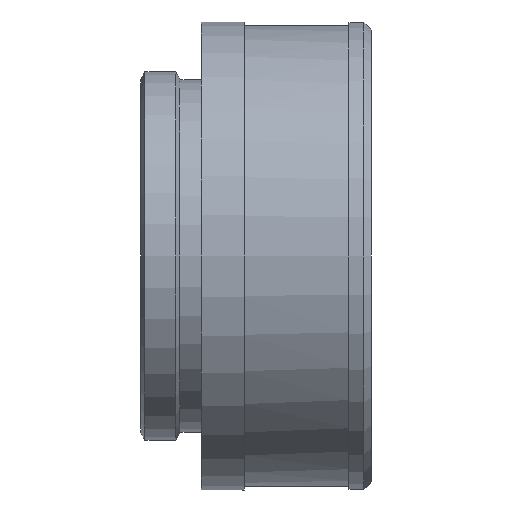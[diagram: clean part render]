
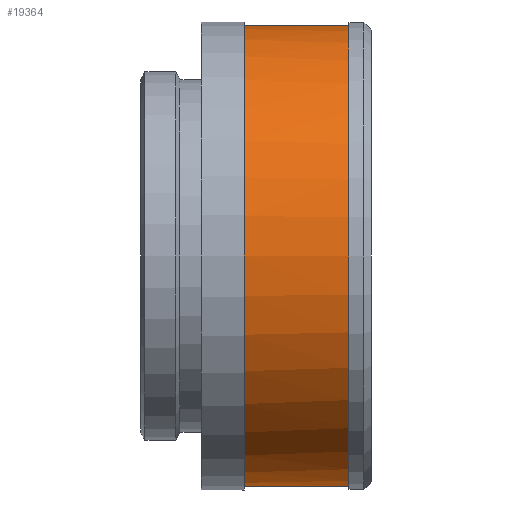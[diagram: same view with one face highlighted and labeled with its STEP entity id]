
A CAD part, left-side view. The second image highlights one B-rep face of the part: STEP entity #19364.
In plain terms, the highlighted cylindrical face has radius 15.621 mm (diameter 31.242 mm), a partial arc.
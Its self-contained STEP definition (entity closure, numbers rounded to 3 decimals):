
#229 = CARTESIAN_POINT ( 'NONE',  ( 0., -0.92, 15.621 ) ) ;
#292 = ORIENTED_EDGE ( 'NONE', *, *, #7984, .T. ) ;
#943 = FACE_OUTER_BOUND ( 'NONE', #22565, .T. ) ;
#1047 = CIRCLE ( 'NONE', #3599, 15.621 ) ;
#1156 = AXIS2_PLACEMENT_3D ( 'NONE', #7054, #3357, #16540 ) ;
#1966 = VERTEX_POINT ( 'NONE', #14406 ) ;
#2514 = DIRECTION ( 'NONE',  ( 0., 1., 0. ) ) ;
#2729 = DIRECTION ( 'NONE',  ( 0., 1., 0. ) ) ;
#3357 = DIRECTION ( 'NONE',  ( 0., 1., 0. ) ) ;
#3599 = AXIS2_PLACEMENT_3D ( 'NONE', #8130, #21882, #18082 ) ;
#3719 = VERTEX_POINT ( 'NONE', #18219 ) ;
#4139 = EDGE_CURVE ( 'NONE', #14565, #10554, #18747, .T. ) ;
#4501 = ORIENTED_EDGE ( 'NONE', *, *, #12476, .F. ) ;
#4831 = CARTESIAN_POINT ( 'NONE',  ( 0., 6.192, 0. ) ) ;
#4892 = EDGE_CURVE ( 'NONE', #18725, #17620, #22191, .T. ) ;
#5802 = CARTESIAN_POINT ( 'NONE',  ( -0.762, -0.92, -15.602 ) ) ;
#6221 = ORIENTED_EDGE ( 'NONE', *, *, #4892, .T. ) ;
#6328 = ORIENTED_EDGE ( 'NONE', *, *, #9802, .F. ) ;
#6674 = DIRECTION ( 'NONE',  ( 0., 0., 1. ) ) ;
#6678 = CARTESIAN_POINT ( 'NONE',  ( 0., -0.92, -15.621 ) ) ;
#6702 = CARTESIAN_POINT ( 'NONE',  ( 0., -0.92, 0. ) ) ;
#6715 = DIRECTION ( 'NONE',  ( 0., 1., 0. ) ) ;
#7054 = CARTESIAN_POINT ( 'NONE',  ( 0., -0.92, 0. ) ) ;
#7114 = DIRECTION ( 'NONE',  ( 0., 1., 0. ) ) ;
#7984 = EDGE_CURVE ( 'NONE', #3719, #18725, #17670, .T. ) ;
#8130 = CARTESIAN_POINT ( 'NONE',  ( 0., -0.92, 0. ) ) ;
#9176 = EDGE_CURVE ( 'NONE', #10554, #3719, #1047, .T. ) ;
#9802 = EDGE_CURVE ( 'NONE', #14565, #1966, #11280, .T. ) ;
#10509 = DIRECTION ( 'NONE',  ( 0., 0., -1. ) ) ;
#10528 = AXIS2_PLACEMENT_3D ( 'NONE', #6702, #22184, #10509 ) ;
#10554 = VERTEX_POINT ( 'NONE', #5802 ) ;
#11280 = LINE ( 'NONE', #14479, #23383 ) ;
#11595 = ORIENTED_EDGE ( 'NONE', *, *, #9176, .T. ) ;
#11929 = AXIS2_PLACEMENT_3D ( 'NONE', #22274, #6715, #18308 ) ;
#12476 = EDGE_CURVE ( 'NONE', #1966, #17620, #21838, .T. ) ;
#13403 = VECTOR ( 'NONE', #2514, 1000. ) ;
#13781 = CARTESIAN_POINT ( 'NONE',  ( 0., 6.192, 15.621 ) ) ;
#14406 = CARTESIAN_POINT ( 'NONE',  ( 0., 6.192, -15.621 ) ) ;
#14479 = CARTESIAN_POINT ( 'NONE',  ( 0., 0., -15.621 ) ) ;
#14565 = VERTEX_POINT ( 'NONE', #6678 ) ;
#16540 = DIRECTION ( 'NONE',  ( 0., 0., -1. ) ) ;
#17061 = CARTESIAN_POINT ( 'NONE',  ( 0., 0., 15.621 ) ) ;
#17620 = VERTEX_POINT ( 'NONE', #13781 ) ;
#17670 = CIRCLE ( 'NONE', #10528, 15.621 ) ;
#18082 = DIRECTION ( 'NONE',  ( 0., 0., 1. ) ) ;
#18219 = CARTESIAN_POINT ( 'NONE',  ( -0.762, -0.92, 15.602 ) ) ;
#18308 = DIRECTION ( 'NONE',  ( 0., 0., 1. ) ) ;
#18725 = VERTEX_POINT ( 'NONE', #229 ) ;
#18747 = CIRCLE ( 'NONE', #1156, 15.621 ) ;
#19364 = ADVANCED_FACE ( 'NONE', ( #943 ), #20881, .T. ) ;
#20881 = CYLINDRICAL_SURFACE ( 'NONE', #11929, 15.621 ) ;
#21282 = AXIS2_PLACEMENT_3D ( 'NONE', #4831, #2729, #6674 ) ;
#21838 = CIRCLE ( 'NONE', #21282, 15.621 ) ;
#21882 = DIRECTION ( 'NONE',  ( 0., 1., 0. ) ) ;
#22184 = DIRECTION ( 'NONE',  ( 0., 1., 0. ) ) ;
#22191 = LINE ( 'NONE', #17061, #13403 ) ;
#22274 = CARTESIAN_POINT ( 'NONE',  ( 0., 0., 0. ) ) ;
#22565 = EDGE_LOOP ( 'NONE', ( #6328, #23793, #11595, #292, #6221, #4501 ) ) ;
#23383 = VECTOR ( 'NONE', #7114, 1000. ) ;
#23793 = ORIENTED_EDGE ( 'NONE', *, *, #4139, .T. ) ;
